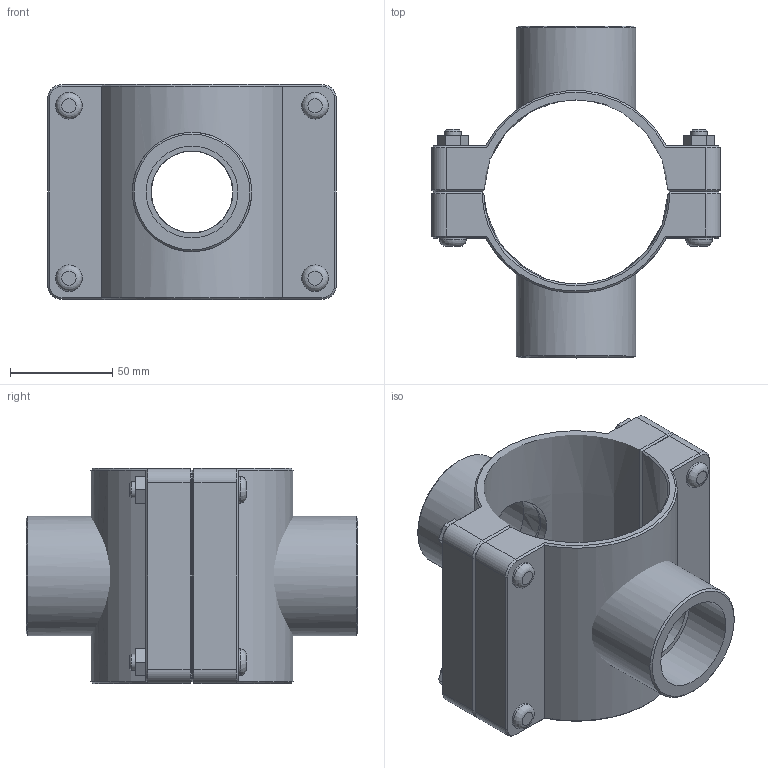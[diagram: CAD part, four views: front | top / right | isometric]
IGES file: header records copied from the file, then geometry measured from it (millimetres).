
Global section: file name: 161760090015_161860090015.ipt; native system: Autodesk Inventor 2015; preprocessor: unknown; author: KIM; date: 20170618.093731; units: millimetre
Bounding box: 141 x 162 x 105 mm (x, y, z)
Volume: 430685 mm3; surface area: 113757.9 mm2
Topology: 3 solids, 3 shells, 151 faces, 350 edges, 221 vertices
Faces by surface type: plane 84, cone 26, cylinder 24, revolution 17
Full cylindrical faces by diameter (mm): 8 x4, 13 x8, 58.298 x2
